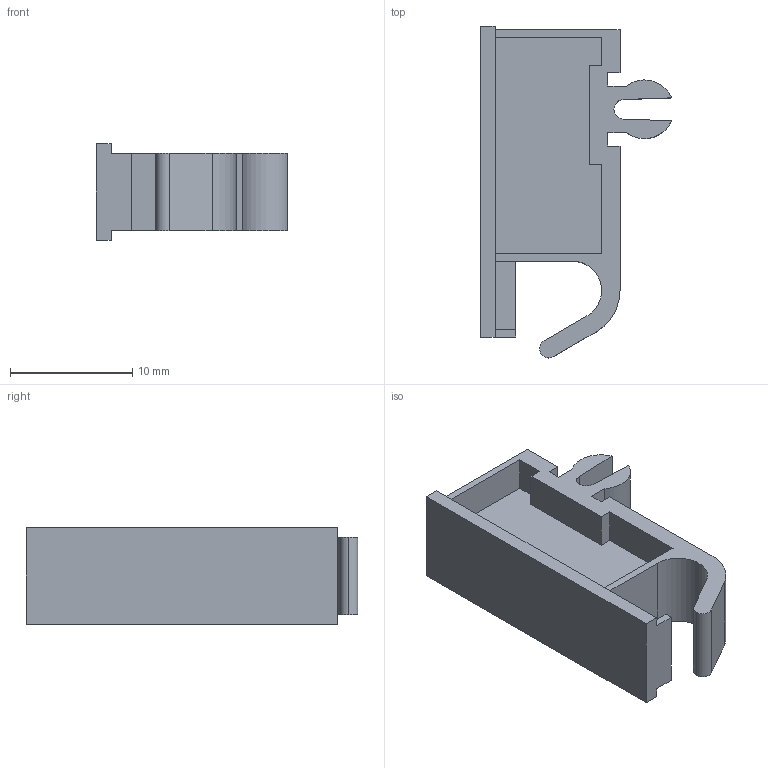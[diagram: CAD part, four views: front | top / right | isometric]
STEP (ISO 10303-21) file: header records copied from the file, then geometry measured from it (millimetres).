
FILE_DESCRIPTION (( 'STEP AP203' ), '1' );
FILE_NAME ('Spacer - Innenblende F8 Crystal - KP65034400.step', '2022-09-20T06:56:00', ( '' ), ( '' ), 'SwSTEP 2.0', 'SolidWorks 2021', '' );
FILE_SCHEMA (( 'CONFIG_CONTROL_DESIGN' ));
Length unit declared in the file: millimetre
Products named in the file (1): Spacer - Innenblende F8 Crystal - KP65034400
Bounding box: 15.61 x 27.1 x 7.9 mm (x, y, z)
Volume: 788 mm3; surface area: 1646.5 mm2
Topology: 1 solids, 1 shells, 53 faces, 153 edges, 102 vertices
Faces by surface type: plane 45, cylinder 8
Entity records: 1800 total; most frequent: CARTESIAN_POINT 309, ORIENTED_EDGE 306, DIRECTION 277, EDGE_CURVE 153, LINE 137, VECTOR 137, VERTEX_POINT 102, AXIS2_PLACEMENT_3D 70
